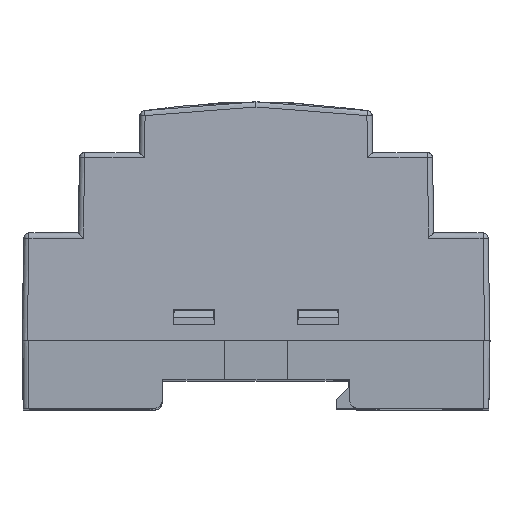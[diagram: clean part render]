
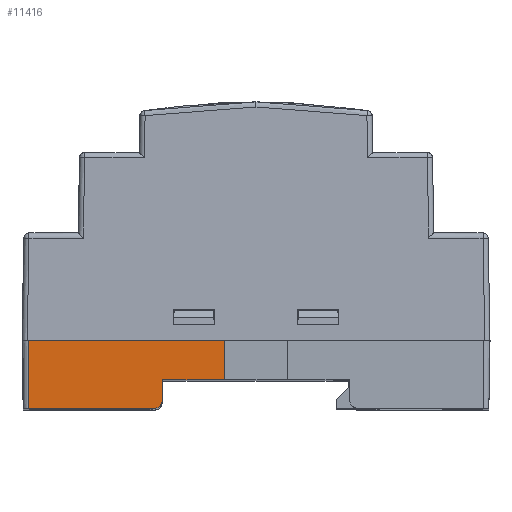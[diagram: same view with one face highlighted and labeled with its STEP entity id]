
A CAD part, top view. The second image highlights one B-rep face of the part: STEP entity #11416.
In plain terms, the highlighted planar face has unit normal (0, -0.018, 1).
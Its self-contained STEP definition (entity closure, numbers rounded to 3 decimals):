
#72 = CARTESIAN_POINT ( 'NONE',  ( -19.52, -13.1, 105.821 ) ) ;
#1486 = VECTOR ( 'NONE', #3818, 1000. ) ;
#2484 = EDGE_CURVE ( 'NONE', #52178, #56083, #34470, .T. ) ;
#2868 = DIRECTION ( 'NONE',  ( 0., -1., -0.017 ) ) ;
#2913 = CARTESIAN_POINT ( 'NONE',  ( -19.52, -13.1, 105.821 ) ) ;
#3818 = DIRECTION ( 'NONE',  ( -0.017, -1., -0.017 ) ) ;
#6129 = EDGE_CURVE ( 'NONE', #56083, #58360, #14119, .T. ) ;
#7725 = LINE ( 'NONE', #17139, #17183 ) ;
#9295 = DIRECTION ( 'NONE',  ( -0.009, -1., -0.017 ) ) ;
#11416 = ADVANCED_FACE ( 'NONE', ( #29495 ), #50587, .T. ) ;
#12810 = VECTOR ( 'NONE', #30486, 1000. ) ;
#13044 = CARTESIAN_POINT ( 'NONE',  ( -17.798, 1.096, 106.069 ) ) ;
#13093 = ORIENTED_EDGE ( 'NONE', *, *, #21740, .T. ) ;
#13432 = DIRECTION ( 'NONE',  ( 0., -1., -0.017 ) ) ;
#14119 =( BOUNDED_CURVE ( )  B_SPLINE_CURVE ( 3, ( #72, #41189, #51161, #46034 ),
 .UNSPECIFIED., .F., .F. ) 
 B_SPLINE_CURVE_WITH_KNOTS ( ( 4, 4 ),
 ( 0., 1.553 ),
 .UNSPECIFIED. ) 
 CURVE ( )  GEOMETRIC_REPRESENTATION_ITEM ( )  RATIONAL_B_SPLINE_CURVE ( ( 1., 0.809, 0.809, 1. ) ) 
 REPRESENTATION_ITEM ( '' )  );
#14708 = VECTOR ( 'NONE', #9295, 1000. ) ;
#16767 = EDGE_CURVE ( 'NONE', #56055, #31764, #7725, .T. ) ;
#17139 = CARTESIAN_POINT ( 'NONE',  ( 45., -7.6, 105.917 ) ) ;
#17183 = VECTOR ( 'NONE', #49666, 1000. ) ;
#20721 = VERTEX_POINT ( 'NONE', #34045 ) ;
#20787 = CARTESIAN_POINT ( 'NONE',  ( -45., -13.1, 105.821 ) ) ;
#21740 = EDGE_CURVE ( 'NONE', #20721, #52178, #29844, .T. ) ;
#22335 = DIRECTION ( 'NONE',  ( 1., 0., 0. ) ) ;
#22738 = DIRECTION ( 'NONE',  ( 0., -0.017, 1. ) ) ;
#23077 = EDGE_CURVE ( 'NONE', #20721, #33513, #26800, .T. ) ;
#23299 = CARTESIAN_POINT ( 'NONE',  ( -5.984, 0., 106.05 ) ) ;
#24051 = VECTOR ( 'NONE', #2868, 1000. ) ;
#26307 = ORIENTED_EDGE ( 'NONE', *, *, #6129, .T. ) ;
#26800 = LINE ( 'NONE', #49780, #55912 ) ;
#29495 = FACE_OUTER_BOUND ( 'NONE', #36207, .T. ) ;
#29844 = LINE ( 'NONE', #53893, #24051 ) ;
#30486 = DIRECTION ( 'NONE',  ( 1., 0., 0. ) ) ;
#31764 = VERTEX_POINT ( 'NONE', #44262 ) ;
#33513 = VERTEX_POINT ( 'NONE', #23299 ) ;
#34045 = CARTESIAN_POINT ( 'NONE',  ( -43.75, 0., 106.05 ) ) ;
#34470 = LINE ( 'NONE', #20787, #12810 ) ;
#36207 = EDGE_LOOP ( 'NONE', ( #47580, #26307, #51042, #50188, #53683, #56389, #13093 ) ) ;
#36538 = AXIS2_PLACEMENT_3D ( 'NONE', #45865, #22738, #13432 ) ;
#38648 = EDGE_CURVE ( 'NONE', #33513, #31764, #39388, .T. ) ;
#39346 = CARTESIAN_POINT ( 'NONE',  ( -18.02, -11.626, 105.847 ) ) ;
#39388 = LINE ( 'NONE', #46846, #14708 ) ;
#41189 = CARTESIAN_POINT ( 'NONE',  ( -18.653, -13.1, 105.821 ) ) ;
#43090 = LINE ( 'NONE', #13044, #1486 ) ;
#44262 = CARTESIAN_POINT ( 'NONE',  ( -6.05, -7.6, 105.917 ) ) ;
#44750 = CARTESIAN_POINT ( 'NONE',  ( -17.95, -7.6, 105.917 ) ) ;
#45865 = CARTESIAN_POINT ( 'NONE',  ( 45., 0., 106.05 ) ) ;
#46034 = CARTESIAN_POINT ( 'NONE',  ( -18.02, -11.626, 105.847 ) ) ;
#46846 = CARTESIAN_POINT ( 'NONE',  ( -5.98, 0.445, 106.058 ) ) ;
#47580 = ORIENTED_EDGE ( 'NONE', *, *, #2484, .T. ) ;
#49666 = DIRECTION ( 'NONE',  ( 1., 0., 0. ) ) ;
#49780 = CARTESIAN_POINT ( 'NONE',  ( 45., 0., 106.05 ) ) ;
#50188 = ORIENTED_EDGE ( 'NONE', *, *, #16767, .T. ) ;
#50587 = PLANE ( 'NONE',  #36538 ) ;
#51042 = ORIENTED_EDGE ( 'NONE', *, *, #56553, .F. ) ;
#51161 = CARTESIAN_POINT ( 'NONE',  ( -18.035, -12.493, 105.832 ) ) ;
#52178 = VERTEX_POINT ( 'NONE', #59524 ) ;
#53683 = ORIENTED_EDGE ( 'NONE', *, *, #38648, .F. ) ;
#53893 = CARTESIAN_POINT ( 'NONE',  ( -43.75, 0., 106.05 ) ) ;
#55912 = VECTOR ( 'NONE', #22335, 1000. ) ;
#56055 = VERTEX_POINT ( 'NONE', #44750 ) ;
#56083 = VERTEX_POINT ( 'NONE', #2913 ) ;
#56389 = ORIENTED_EDGE ( 'NONE', *, *, #23077, .F. ) ;
#56553 = EDGE_CURVE ( 'NONE', #56055, #58360, #43090, .T. ) ;
#58360 = VERTEX_POINT ( 'NONE', #39346 ) ;
#59524 = CARTESIAN_POINT ( 'NONE',  ( -43.75, -13.1, 105.821 ) ) ;
